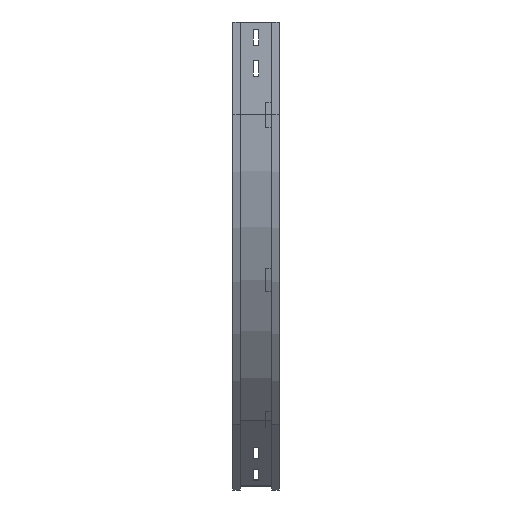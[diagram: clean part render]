
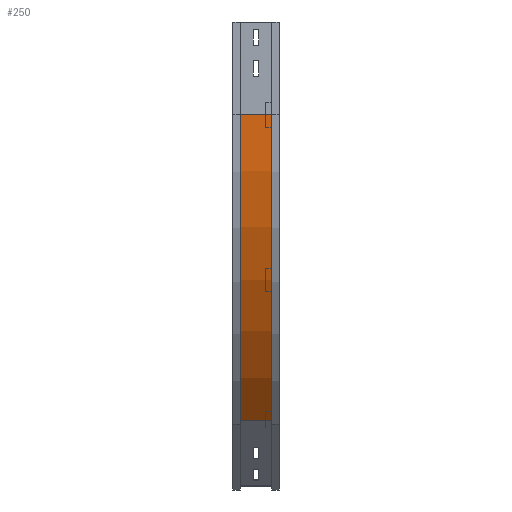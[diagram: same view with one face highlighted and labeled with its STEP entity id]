
A CAD part, left-side view. The second image highlights one B-rep face of the part: STEP entity #250.
In plain terms, the highlighted cylindrical face has radius 700 mm (diameter 1400 mm), a partial arc.
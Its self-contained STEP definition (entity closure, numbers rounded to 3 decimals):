
#46 = VERTEX_POINT ( 'NONE', #1189 ) ;
#69 = EDGE_CURVE ( 'NONE', #46, #3139, #2509, .T. ) ;
#94 = DIRECTION ( 'NONE',  ( 0., 0., -1. ) ) ;
#129 = CARTESIAN_POINT ( 'NONE',  ( 9., 12., -150. ) ) ;
#250 = ADVANCED_FACE ( 'NONE', ( #868 ), #2201, .T. ) ;
#251 = AXIS2_PLACEMENT_3D ( 'NONE', #1677, #607, #1169 ) ;
#387 = AXIS2_PLACEMENT_3D ( 'NONE', #3208, #2472, #94 ) ;
#410 = DIRECTION ( 'NONE',  ( -1., 0., 0. ) ) ;
#470 = CIRCLE ( 'NONE', #1691, 700. ) ;
#607 = DIRECTION ( 'NONE',  ( 0., -1., 0. ) ) ;
#868 = FACE_OUTER_BOUND ( 'NONE', #2999, .T. ) ;
#984 = CARTESIAN_POINT ( 'NONE',  ( 214.025, 63., -644.975 ) ) ;
#1075 = VECTOR ( 'NONE', #2256, 1000. ) ;
#1143 = EDGE_CURVE ( 'NONE', #1913, #1193, #1853, .T. ) ;
#1169 = DIRECTION ( 'NONE',  ( -1., 0., 0. ) ) ;
#1189 = CARTESIAN_POINT ( 'NONE',  ( 9., 63., -150. ) ) ;
#1193 = VERTEX_POINT ( 'NONE', #2099 ) ;
#1406 = CARTESIAN_POINT ( 'NONE',  ( 709., 12., -150. ) ) ;
#1446 = ORIENTED_EDGE ( 'NONE', *, *, #2599, .T. ) ;
#1677 = CARTESIAN_POINT ( 'NONE',  ( 709., 63., -150. ) ) ;
#1679 = VECTOR ( 'NONE', #1887, 1000. ) ;
#1691 = AXIS2_PLACEMENT_3D ( 'NONE', #1406, #1739, #410 ) ;
#1739 = DIRECTION ( 'NONE',  ( 0., -1., 0. ) ) ;
#1758 = CIRCLE ( 'NONE', #251, 700. ) ;
#1769 = ORIENTED_EDGE ( 'NONE', *, *, #1143, .T. ) ;
#1770 = ORIENTED_EDGE ( 'NONE', *, *, #69, .F. ) ;
#1853 = LINE ( 'NONE', #2400, #1679 ) ;
#1887 = DIRECTION ( 'NONE',  ( 0., -1., 0. ) ) ;
#1913 = VERTEX_POINT ( 'NONE', #984 ) ;
#2099 = CARTESIAN_POINT ( 'NONE',  ( 214.025, 12., -644.975 ) ) ;
#2143 = EDGE_CURVE ( 'NONE', #3139, #1193, #470, .T. ) ;
#2168 = ORIENTED_EDGE ( 'NONE', *, *, #2143, .F. ) ;
#2201 = CYLINDRICAL_SURFACE ( 'NONE', #387, 700. ) ;
#2256 = DIRECTION ( 'NONE',  ( 0., -1., 0. ) ) ;
#2400 = CARTESIAN_POINT ( 'NONE',  ( 214.025, 12., -644.975 ) ) ;
#2472 = DIRECTION ( 'NONE',  ( 0., -1., 0. ) ) ;
#2509 = LINE ( 'NONE', #129, #1075 ) ;
#2599 = EDGE_CURVE ( 'NONE', #46, #1913, #1758, .T. ) ;
#2724 = CARTESIAN_POINT ( 'NONE',  ( 9., 12., -150. ) ) ;
#2999 = EDGE_LOOP ( 'NONE', ( #2168, #1770, #1446, #1769 ) ) ;
#3139 = VERTEX_POINT ( 'NONE', #2724 ) ;
#3208 = CARTESIAN_POINT ( 'NONE',  ( 709., 0., -150. ) ) ;
